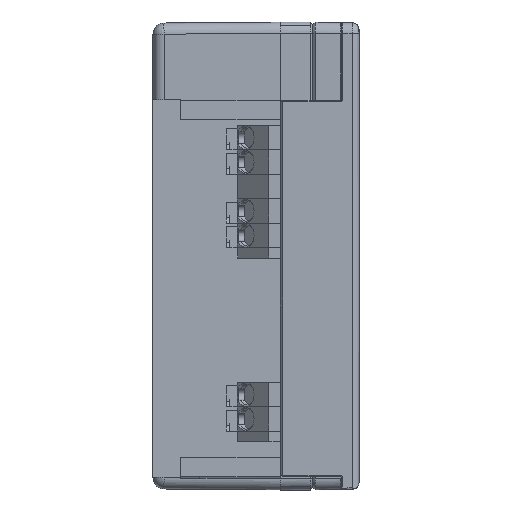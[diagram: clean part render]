
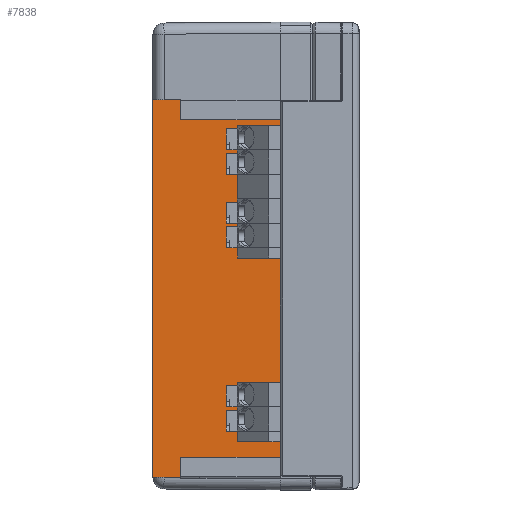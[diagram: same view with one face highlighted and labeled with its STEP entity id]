
A CAD part, left-side view. The second image highlights one B-rep face of the part: STEP entity #7838.
In plain terms, the highlighted planar face has unit normal (-1, 0, 0).
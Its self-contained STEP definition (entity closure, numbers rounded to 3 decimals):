
#91 = VECTOR ( 'NONE', #13441, 1000. ) ;
#290 = EDGE_CURVE ( 'NONE', #13351, #16528, #6231, .T. ) ;
#311 = DIRECTION ( 'NONE',  ( 0., -1., 0. ) ) ;
#623 = VERTEX_POINT ( 'NONE', #8893 ) ;
#896 = VECTOR ( 'NONE', #1835, 1000. ) ;
#943 = VERTEX_POINT ( 'NONE', #9139 ) ;
#1279 = CARTESIAN_POINT ( 'NONE',  ( -37.547, 23.884, 22.4 ) ) ;
#1293 = ORIENTED_EDGE ( 'NONE', *, *, #14957, .T. ) ;
#1717 = DIRECTION ( 'NONE',  ( 0., 0., -1. ) ) ;
#1803 = ORIENTED_EDGE ( 'NONE', *, *, #24076, .F. ) ;
#1835 = DIRECTION ( 'NONE',  ( 0., 0., -1. ) ) ;
#2269 = LINE ( 'NONE', #23558, #24425 ) ;
#2348 = LINE ( 'NONE', #15420, #6842 ) ;
#2414 = ORIENTED_EDGE ( 'NONE', *, *, #25222, .T. ) ;
#2518 = VERTEX_POINT ( 'NONE', #14515 ) ;
#2755 = CARTESIAN_POINT ( 'NONE',  ( -37.547, 64.839, 31.642 ) ) ;
#3000 = EDGE_LOOP ( 'NONE', ( #13080, #14410, #16202, #24187, #1293, #2414, #15842, #7192, #14527, #25646, #1803, #4955, #16558, #20390, #23526, #21802, #27520, #26848 ) ) ;
#3027 = CARTESIAN_POINT ( 'NONE',  ( -37.547, 0.984, -31.2 ) ) ;
#3055 = VECTOR ( 'NONE', #6456, 1000. ) ;
#3608 = LINE ( 'NONE', #14657, #15105 ) ;
#3869 = CARTESIAN_POINT ( 'NONE',  ( -37.547, 113.172, 19.5 ) ) ;
#4231 = CARTESIAN_POINT ( 'NONE',  ( -37.547, 77.986, 22.4 ) ) ;
#4363 = CARTESIAN_POINT ( 'NONE',  ( -37.547, 5.684, 31.7 ) ) ;
#4366 = DIRECTION ( 'NONE',  ( 0., 0., 1. ) ) ;
#4564 = CARTESIAN_POINT ( 'NONE',  ( -37.547, 5.684, 19.5 ) ) ;
#4659 = CARTESIAN_POINT ( 'NONE',  ( -37.547, 0.984, -31.7 ) ) ;
#4955 = ORIENTED_EDGE ( 'NONE', *, *, #12231, .T. ) ;
#5064 = DIRECTION ( 'NONE',  ( 0., 1., 0. ) ) ;
#5189 = DIRECTION ( 'NONE',  ( 1., 0., 0. ) ) ;
#5340 = CARTESIAN_POINT ( 'NONE',  ( -37.547, -0.916, -31.642 ) ) ;
#5351 = CARTESIAN_POINT ( 'NONE',  ( -37.547, 113.172, -28.8 ) ) ;
#5356 = CARTESIAN_POINT ( 'NONE',  ( -37.547, 113.172, -31.2 ) ) ;
#5600 = VECTOR ( 'NONE', #18181, 1000. ) ;
#5623 = VECTOR ( 'NONE', #24851, 1000. ) ;
#5769 = VECTOR ( 'NONE', #311, 1000. ) ;
#5914 = VERTEX_POINT ( 'NONE', #8661 ) ;
#6022 = VECTOR ( 'NONE', #16243, 1000. ) ;
#6231 = LINE ( 'NONE', #3869, #12657 ) ;
#6456 = DIRECTION ( 'NONE',  ( 0., -1., 0. ) ) ;
#6579 = DIRECTION ( 'NONE',  ( 0., -1., -0.009 ) ) ;
#6614 = LINE ( 'NONE', #4363, #23631 ) ;
#6662 = LINE ( 'NONE', #4659, #12421 ) ;
#6842 = VECTOR ( 'NONE', #17557, 1000. ) ;
#7095 = VERTEX_POINT ( 'NONE', #25542 ) ;
#7192 = ORIENTED_EDGE ( 'NONE', *, *, #290, .F. ) ;
#7258 = EDGE_CURVE ( 'NONE', #623, #25588, #27607, .T. ) ;
#7838 = ADVANCED_FACE ( 'NONE', ( #23834 ), #15783, .F. ) ;
#8088 = LINE ( 'NONE', #8355, #896 ) ;
#8355 = CARTESIAN_POINT ( 'NONE',  ( -37.547, 19.884, -31.7 ) ) ;
#8511 = VECTOR ( 'NONE', #16059, 1000. ) ;
#8661 = CARTESIAN_POINT ( 'NONE',  ( -37.547, 5.684, -28.8 ) ) ;
#8893 = CARTESIAN_POINT ( 'NONE',  ( -37.547, 5.684, -31.2 ) ) ;
#9139 = CARTESIAN_POINT ( 'NONE',  ( -37.547, 23.884, -31.7 ) ) ;
#10331 = LINE ( 'NONE', #5351, #21612 ) ;
#10485 = EDGE_CURVE ( 'NONE', #25588, #7095, #6662, .T. ) ;
#10602 = LINE ( 'NONE', #2755, #26812 ) ;
#10999 = EDGE_CURVE ( 'NONE', #23993, #15108, #3608, .T. ) ;
#11221 = EDGE_CURVE ( 'NONE', #12540, #7095, #11411, .T. ) ;
#11343 = CARTESIAN_POINT ( 'NONE',  ( -37.547, 5.684, -31.7 ) ) ;
#11411 = LINE ( 'NONE', #18440, #5623 ) ;
#12231 = EDGE_CURVE ( 'NONE', #943, #15108, #23470, .T. ) ;
#12421 = VECTOR ( 'NONE', #21880, 1000. ) ;
#12540 = VERTEX_POINT ( 'NONE', #5340 ) ;
#12657 = VECTOR ( 'NONE', #27244, 1000. ) ;
#12893 = CARTESIAN_POINT ( 'NONE',  ( -37.547, 0.984, 31.659 ) ) ;
#13080 = ORIENTED_EDGE ( 'NONE', *, *, #13954, .F. ) ;
#13183 = EDGE_CURVE ( 'NONE', #14039, #21636, #2269, .T. ) ;
#13351 = VERTEX_POINT ( 'NONE', #13416 ) ;
#13416 = CARTESIAN_POINT ( 'NONE',  ( -37.547, 19.884, 19.5 ) ) ;
#13441 = DIRECTION ( 'NONE',  ( 0., 0., -1. ) ) ;
#13842 = VERTEX_POINT ( 'NONE', #1279 ) ;
#13954 = EDGE_CURVE ( 'NONE', #14039, #12540, #24396, .T. ) ;
#14039 = VERTEX_POINT ( 'NONE', #21012 ) ;
#14054 = EDGE_CURVE ( 'NONE', #2518, #13351, #8088, .T. ) ;
#14062 = VERTEX_POINT ( 'NONE', #14784 ) ;
#14410 = ORIENTED_EDGE ( 'NONE', *, *, #13183, .T. ) ;
#14515 = CARTESIAN_POINT ( 'NONE',  ( -37.547, 19.884, 22.4 ) ) ;
#14527 = ORIENTED_EDGE ( 'NONE', *, *, #14054, .F. ) ;
#14657 = CARTESIAN_POINT ( 'NONE',  ( -37.547, 19.884, -31.7 ) ) ;
#14784 = CARTESIAN_POINT ( 'NONE',  ( -37.547, 5.684, 21.9 ) ) ;
#14957 = EDGE_CURVE ( 'NONE', #24016, #25804, #23051, .T. ) ;
#15091 = CARTESIAN_POINT ( 'NONE',  ( -37.547, 23.884, 22.4 ) ) ;
#15105 = VECTOR ( 'NONE', #1717, 1000. ) ;
#15108 = VERTEX_POINT ( 'NONE', #26994 ) ;
#15420 = CARTESIAN_POINT ( 'NONE',  ( -37.547, 113.172, 21.9 ) ) ;
#15783 = PLANE ( 'NONE',  #22053 ) ;
#15842 = ORIENTED_EDGE ( 'NONE', *, *, #23107, .T. ) ;
#16059 = DIRECTION ( 'NONE',  ( 0., 0., -1. ) ) ;
#16202 = ORIENTED_EDGE ( 'NONE', *, *, #20554, .T. ) ;
#16243 = DIRECTION ( 'NONE',  ( 0., 0., -1. ) ) ;
#16332 = EDGE_CURVE ( 'NONE', #5914, #23993, #10331, .T. ) ;
#16528 = VERTEX_POINT ( 'NONE', #4564 ) ;
#16558 = ORIENTED_EDGE ( 'NONE', *, *, #10999, .F. ) ;
#16949 = CARTESIAN_POINT ( 'NONE',  ( -37.547, 19.884, -28.8 ) ) ;
#17557 = DIRECTION ( 'NONE',  ( 0., 1., 0. ) ) ;
#18022 = CARTESIAN_POINT ( 'NONE',  ( -37.547, 113.172, -31.7 ) ) ;
#18181 = DIRECTION ( 'NONE',  ( 0., -1., 0. ) ) ;
#18440 = CARTESIAN_POINT ( 'NONE',  ( -37.547, 5.684, -31.7 ) ) ;
#18587 = LINE ( 'NONE', #11343, #91 ) ;
#18666 = CARTESIAN_POINT ( 'NONE',  ( -37.547, 0.984, 21.9 ) ) ;
#19363 = DIRECTION ( 'NONE',  ( 0., 0., 1. ) ) ;
#20155 = DIRECTION ( 'NONE',  ( 0., 0., -1. ) ) ;
#20390 = ORIENTED_EDGE ( 'NONE', *, *, #16332, .F. ) ;
#20410 = CARTESIAN_POINT ( 'NONE',  ( -37.547, 0.984, -31.7 ) ) ;
#20554 = EDGE_CURVE ( 'NONE', #21636, #22412, #10602, .T. ) ;
#20873 = VECTOR ( 'NONE', #4366, 1000. ) ;
#21012 = CARTESIAN_POINT ( 'NONE',  ( -37.547, 0.284, -31.642 ) ) ;
#21350 = EDGE_CURVE ( 'NONE', #24016, #22412, #6614, .T. ) ;
#21612 = VECTOR ( 'NONE', #5064, 1000. ) ;
#21636 = VERTEX_POINT ( 'NONE', #22700 ) ;
#21802 = ORIENTED_EDGE ( 'NONE', *, *, #7258, .T. ) ;
#21880 = DIRECTION ( 'NONE',  ( 0., 0., -1. ) ) ;
#21927 = EDGE_CURVE ( 'NONE', #13842, #2518, #25888, .T. ) ;
#22053 = AXIS2_PLACEMENT_3D ( 'NONE', #18022, #5189, #20155 ) ;
#22412 = VERTEX_POINT ( 'NONE', #22769 ) ;
#22700 = CARTESIAN_POINT ( 'NONE',  ( -37.547, 0.284, 31.642 ) ) ;
#22769 = CARTESIAN_POINT ( 'NONE',  ( -37.547, -0.916, 31.642 ) ) ;
#22983 = CARTESIAN_POINT ( 'NONE',  ( -37.547, 64.839, -31.642 ) ) ;
#23051 = LINE ( 'NONE', #20410, #6022 ) ;
#23107 = EDGE_CURVE ( 'NONE', #14062, #16528, #18587, .T. ) ;
#23470 = LINE ( 'NONE', #25992, #5769 ) ;
#23526 = ORIENTED_EDGE ( 'NONE', *, *, #25608, .T. ) ;
#23558 = CARTESIAN_POINT ( 'NONE',  ( -37.547, 0.284, -31.7 ) ) ;
#23631 = VECTOR ( 'NONE', #6579, 1000. ) ;
#23834 = FACE_OUTER_BOUND ( 'NONE', #3000, .T. ) ;
#23993 = VERTEX_POINT ( 'NONE', #16949 ) ;
#24016 = VERTEX_POINT ( 'NONE', #12893 ) ;
#24076 = EDGE_CURVE ( 'NONE', #943, #13842, #26508, .T. ) ;
#24187 = ORIENTED_EDGE ( 'NONE', *, *, #21350, .F. ) ;
#24396 = LINE ( 'NONE', #22983, #25067 ) ;
#24425 = VECTOR ( 'NONE', #19363, 1000. ) ;
#24822 = LINE ( 'NONE', #26640, #8511 ) ;
#24851 = DIRECTION ( 'NONE',  ( 0., 1., -0.009 ) ) ;
#25067 = VECTOR ( 'NONE', #25105, 1000. ) ;
#25105 = DIRECTION ( 'NONE',  ( 0., -1., 0. ) ) ;
#25222 = EDGE_CURVE ( 'NONE', #25804, #14062, #2348, .T. ) ;
#25542 = CARTESIAN_POINT ( 'NONE',  ( -37.547, 0.984, -31.659 ) ) ;
#25588 = VERTEX_POINT ( 'NONE', #3027 ) ;
#25608 = EDGE_CURVE ( 'NONE', #5914, #623, #24822, .T. ) ;
#25646 = ORIENTED_EDGE ( 'NONE', *, *, #21927, .F. ) ;
#25804 = VERTEX_POINT ( 'NONE', #18666 ) ;
#25888 = LINE ( 'NONE', #4231, #3055 ) ;
#25992 = CARTESIAN_POINT ( 'NONE',  ( -37.547, 77.986, -31.7 ) ) ;
#26315 = DIRECTION ( 'NONE',  ( 0., -1., 0. ) ) ;
#26508 = LINE ( 'NONE', #15091, #20873 ) ;
#26640 = CARTESIAN_POINT ( 'NONE',  ( -37.547, 5.684, -31.7 ) ) ;
#26812 = VECTOR ( 'NONE', #26315, 1000. ) ;
#26848 = ORIENTED_EDGE ( 'NONE', *, *, #11221, .F. ) ;
#26994 = CARTESIAN_POINT ( 'NONE',  ( -37.547, 19.884, -31.7 ) ) ;
#27244 = DIRECTION ( 'NONE',  ( 0., -1., 0. ) ) ;
#27520 = ORIENTED_EDGE ( 'NONE', *, *, #10485, .T. ) ;
#27607 = LINE ( 'NONE', #5356, #5600 ) ;
